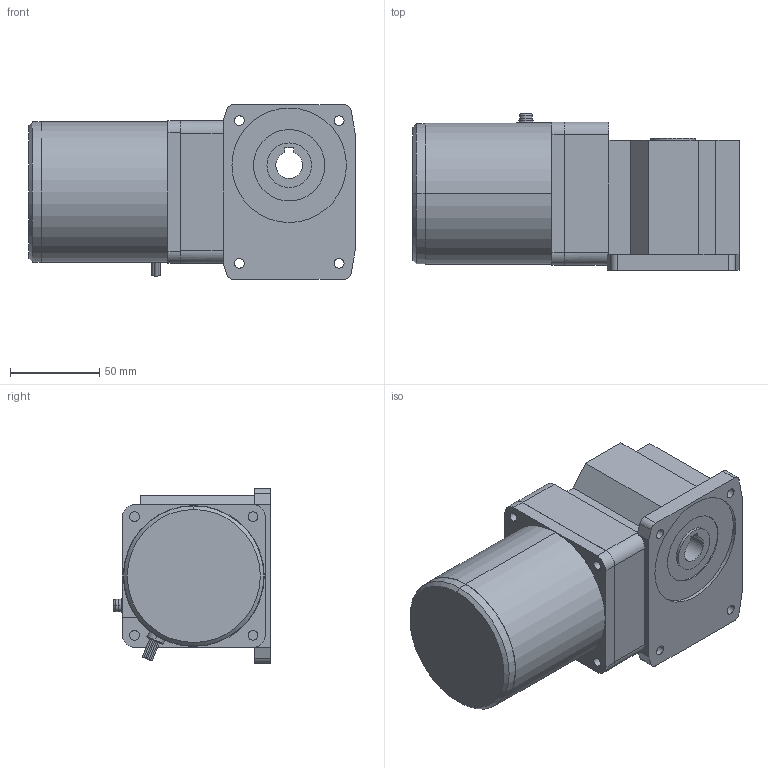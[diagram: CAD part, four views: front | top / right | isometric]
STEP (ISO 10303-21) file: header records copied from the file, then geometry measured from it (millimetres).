
FILE_DESCRIPTION(('starvars output'),'2;1');
FILE_NAME('4RK25GN-AW2U _ 4GN30RH.stp','13:42:50 2015/05/11',( 'Thomas Industrial Network Germany GmbH'),( 'Thomas Industrial Network Germany GmbH'),'unknown preprocess','ACIS' ,'unknown authorization');
FILE_SCHEMA(('AUTOMOTIVE_DESIGN_CC2 {UNKNOWN IMPLEMENTATION LEVEL}'));
Length unit declared in the file: millimetre
Products named in the file (1): PRODUCT_ID_1642
Bounding box: 183 x 88 x 98 mm (x, y, z)
Volume: 953177.6 mm3; surface area: 73122.9 mm2
Topology: 1 solids, 1 shells, 144 faces, 355 edges, 235 vertices
Faces by surface type: cylinder 70, plane 68, torus 4, cone 2
Entity records: 5155 total; most frequent: ORIENTED_EDGE 710, CARTESIAN_POINT 706, DIRECTION 605, EDGE_CURVE 355, VERTEX_POINT 235, AXIS2_PLACEMENT_3D 204, VECTOR 197, LINE 197
